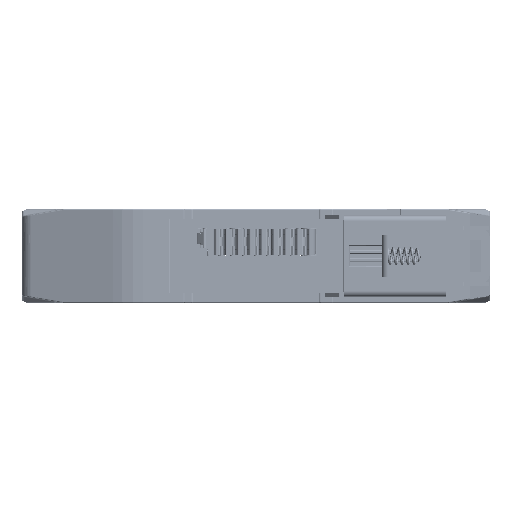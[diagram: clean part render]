
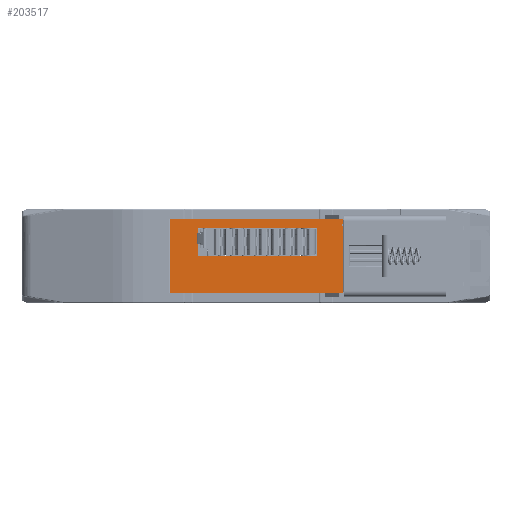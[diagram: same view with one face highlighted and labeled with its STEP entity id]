
A CAD part, front view. The second image highlights one B-rep face of the part: STEP entity #203517.
In plain terms, the highlighted planar face has unit normal (0, -1, 0).
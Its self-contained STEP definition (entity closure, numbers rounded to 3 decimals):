
#52837=DIRECTION('',(1.,0.,0.));
#52838=VECTOR('',#52837,37.);
#52839=CARTESIAN_POINT('',(-18.4,-83.9,-0.8));
#52840=LINE('',#52839,#52838);
#52874=DIRECTION('',(0.,0.,1.));
#52875=VECTOR('',#52874,0.3);
#52876=CARTESIAN_POINT('',(18.6,-83.9,-1.1));
#52877=LINE('',#52876,#52875);
#53559=DIRECTION('',(0.,0.,1.));
#53560=VECTOR('',#53559,6.);
#53561=CARTESIAN_POINT('',(-12.5,-83.9,-8.8));
#53562=LINE('',#53561,#53560);
#53567=DIRECTION('',(-1.,0.,0.));
#53568=VECTOR('',#53567,0.05);
#53569=CARTESIAN_POINT('',(18.6,-83.9,-1.1));
#53570=LINE('',#53569,#53568);
#53571=DIRECTION('',(0.087,0.,0.996));
#53572=VECTOR('',#53571,1.706);
#53573=CARTESIAN_POINT('',(18.401,-83.9,-2.8));
#53574=LINE('',#53573,#53572);
#53575=DIRECTION('',(-1.,0.,0.));
#53576=VECTOR('',#53575,30.901);
#53577=CARTESIAN_POINT('',(18.401,-83.9,-2.8));
#53578=LINE('',#53577,#53576);
#53579=DIRECTION('',(1.,0.,0.));
#53580=VECTOR('',#53579,25.5);
#53581=CARTESIAN_POINT('',(-12.5,-83.9,-8.8));
#53582=LINE('',#53581,#53580);
#53583=DIRECTION('',(0.,0.,1.));
#53584=VECTOR('',#53583,5.95);
#53585=CARTESIAN_POINT('',(13.,-83.9,-8.8));
#53586=LINE('',#53585,#53584);
#53587=DIRECTION('',(0.,0.,-1.));
#53588=VECTOR('',#53587,15.65);
#53589=CARTESIAN_POINT('',(18.6,-83.9,-1.15));
#53590=LINE('',#53589,#53588);
#53595=DIRECTION('',(0.,0.,-1.));
#53596=VECTOR('',#53595,16.);
#53597=CARTESIAN_POINT('',(-18.4,-83.9,-0.8));
#53598=LINE('',#53597,#53596);
#74531=DIRECTION('',(-1.,0.,0.));
#74532=VECTOR('',#74531,37.);
#74533=CARTESIAN_POINT('',(18.6,-83.9,-16.8));
#74534=LINE('',#74533,#74532);
#98575=DIRECTION('',(-0.087,0.,-0.996));
#98576=VECTOR('',#98575,1.706);
#98577=CARTESIAN_POINT('',(18.6,-83.9,-1.15));
#98578=LINE('',#98577,#98576);
#98587=DIRECTION('',(1.,0.,0.));
#98588=VECTOR('',#98587,5.451);
#98589=CARTESIAN_POINT('',(13.,-83.9,-2.85));
#98590=LINE('',#98589,#98588);
#143820=CARTESIAN_POINT('',(-12.5,-83.9,-8.8));
#143821=CARTESIAN_POINT('',(13.,-83.9,-8.8));
#143822=VERTEX_POINT('',#143820);
#143823=VERTEX_POINT('',#143821);
#151169=CARTESIAN_POINT('',(18.6,-83.9,-1.15));
#151170=VERTEX_POINT('',#151169);
#151174=CARTESIAN_POINT('',(13.,-83.9,-2.85));
#151176=VERTEX_POINT('',#151174);
#151177=CARTESIAN_POINT('',(18.451,-83.9,-2.85));
#151179=VERTEX_POINT('',#151177);
#151181=CARTESIAN_POINT('',(18.6,-83.9,-16.8));
#151182=VERTEX_POINT('',#151181);
#151183=CARTESIAN_POINT('',(-18.4,-83.9,-16.8));
#151185=VERTEX_POINT('',#151183);
#157325=CARTESIAN_POINT('',(-12.5,-83.9,-2.8));
#157327=VERTEX_POINT('',#157325);
#162430=CARTESIAN_POINT('',(18.6,-83.9,-1.1));
#162432=VERTEX_POINT('',#162430);
#162474=CARTESIAN_POINT('',(18.6,-83.9,-0.8));
#162475=VERTEX_POINT('',#162474);
#162593=CARTESIAN_POINT('',(-18.4,-83.9,-0.8));
#162595=VERTEX_POINT('',#162593);
#162781=CARTESIAN_POINT('',(18.401,-83.9,-2.8));
#162782=VERTEX_POINT('',#162781);
#162785=CARTESIAN_POINT('',(18.55,-83.9,-1.1));
#162786=VERTEX_POINT('',#162785);
#203488=CARTESIAN_POINT('',(18.6,-83.9,-4.8));
#203489=DIRECTION('',(0.,1.,0.));
#203490=DIRECTION('',(-1.,0.,0.));
#203491=AXIS2_PLACEMENT_3D('',#203488,#203489,#203490);
#203492=PLANE('',#203491);
#203494=ORIENTED_EDGE('',*,*,#203493,.F.);
#203495=ORIENTED_EDGE('',*,*,#202605,.T.);
#203496=ORIENTED_EDGE('',*,*,#202676,.F.);
#203497=ORIENTED_EDGE('',*,*,#202710,.T.);
#203499=ORIENTED_EDGE('',*,*,#203498,.F.);
#203501=ORIENTED_EDGE('',*,*,#203500,.T.);
#203502=ORIENTED_EDGE('',*,*,#203478,.F.);
#203504=ORIENTED_EDGE('',*,*,#203503,.T.);
#203506=ORIENTED_EDGE('',*,*,#203505,.T.);
#203508=ORIENTED_EDGE('',*,*,#203507,.T.);
#203510=ORIENTED_EDGE('',*,*,#203509,.F.);
#203512=ORIENTED_EDGE('',*,*,#203511,.T.);
#203514=ORIENTED_EDGE('',*,*,#203513,.T.);
#203515=EDGE_LOOP('',(#203494,#203495,#203496,#203497,#203499,#203501,#203502,
#203504,#203506,#203508,#203510,#203512,#203514));
#203516=FACE_OUTER_BOUND('',#203515,.F.);
#203517=ADVANCED_FACE('',(#203516),#203492,.F.);
#202605=EDGE_CURVE('',#162595,#162475,#52840,.T.);
#202676=EDGE_CURVE('',#162432,#162475,#52877,.T.);
#202710=EDGE_CURVE('',#162432,#162786,#53570,.T.);
#203478=EDGE_CURVE('',#143822,#157327,#53562,.T.);
#203493=EDGE_CURVE('',#162595,#151185,#53598,.T.);
#203498=EDGE_CURVE('',#162782,#162786,#53574,.T.);
#203500=EDGE_CURVE('',#162782,#157327,#53578,.T.);
#203503=EDGE_CURVE('',#143822,#143823,#53582,.T.);
#203505=EDGE_CURVE('',#143823,#151176,#53586,.T.);
#203507=EDGE_CURVE('',#151176,#151179,#98590,.T.);
#203509=EDGE_CURVE('',#151170,#151179,#98578,.T.);
#203511=EDGE_CURVE('',#151170,#151182,#53590,.T.);
#203513=EDGE_CURVE('',#151182,#151185,#74534,.T.);
